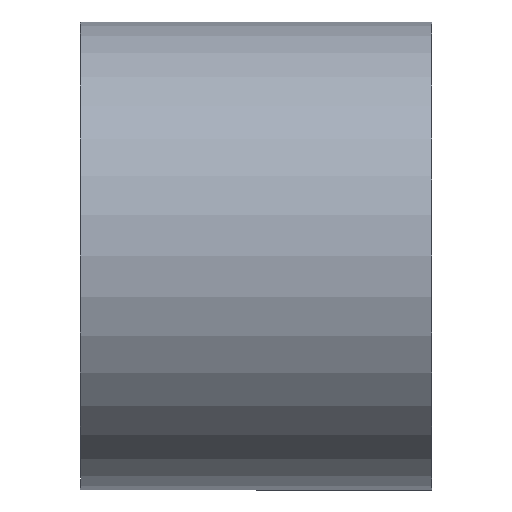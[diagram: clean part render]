
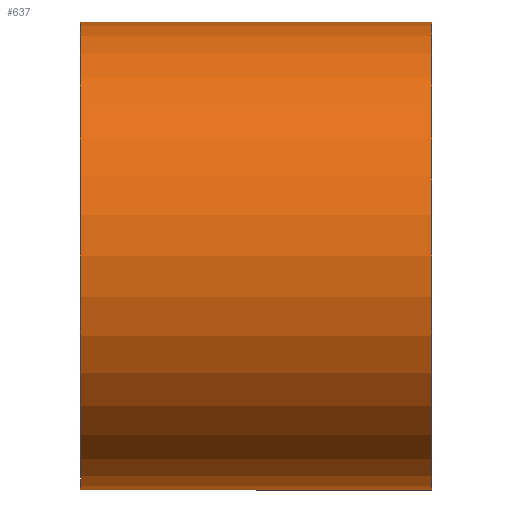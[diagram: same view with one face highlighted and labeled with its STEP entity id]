
A CAD part, front view. The second image highlights one B-rep face of the part: STEP entity #637.
In plain terms, the highlighted cylindrical face has radius 20 mm (diameter 40 mm), a partial arc.
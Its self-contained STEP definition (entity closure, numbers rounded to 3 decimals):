
#5 = AXIS2_PLACEMENT_3D ( 'NONE', #349, #573, #463 ) ;
#21 = CARTESIAN_POINT ( 'NONE',  ( -15., 0., 20. ) ) ;
#22 = DIRECTION ( 'NONE',  ( -1., 0., 0. ) ) ;
#52 = VERTEX_POINT ( 'NONE', #311 ) ;
#72 = VERTEX_POINT ( 'NONE', #133 ) ;
#77 = VECTOR ( 'NONE', #585, 1000. ) ;
#87 = ORIENTED_EDGE ( 'NONE', *, *, #224, .T. ) ;
#91 = AXIS2_PLACEMENT_3D ( 'NONE', #111, #22, #567 ) ;
#98 = CARTESIAN_POINT ( 'NONE',  ( 0., 0., 20. ) ) ;
#111 = CARTESIAN_POINT ( 'NONE',  ( 15., 0., 0. ) ) ;
#133 = CARTESIAN_POINT ( 'NONE',  ( -15., 0., -20. ) ) ;
#161 = CARTESIAN_POINT ( 'NONE',  ( 15., 0., 20. ) ) ;
#167 = VECTOR ( 'NONE', #328, 1000. ) ;
#213 = VERTEX_POINT ( 'NONE', #161 ) ;
#224 = EDGE_CURVE ( 'NONE', #52, #213, #306, .T. ) ;
#258 = EDGE_CURVE ( 'NONE', #72, #613, #721, .T. ) ;
#278 = CYLINDRICAL_SURFACE ( 'NONE', #447, 20. ) ;
#302 = EDGE_CURVE ( 'NONE', #52, #72, #371, .T. ) ;
#306 = CIRCLE ( 'NONE', #91, 20. ) ;
#311 = CARTESIAN_POINT ( 'NONE',  ( 15., 0., -20. ) ) ;
#328 = DIRECTION ( 'NONE',  ( -1., 0., 0. ) ) ;
#335 = ORIENTED_EDGE ( 'NONE', *, *, #458, .T. ) ;
#344 = ORIENTED_EDGE ( 'NONE', *, *, #302, .F. ) ;
#349 = CARTESIAN_POINT ( 'NONE',  ( -15., 0., 0. ) ) ;
#371 = LINE ( 'NONE', #522, #77 ) ;
#386 = LINE ( 'NONE', #98, #167 ) ;
#392 = FACE_OUTER_BOUND ( 'NONE', #561, .T. ) ;
#447 = AXIS2_PLACEMENT_3D ( 'NONE', #562, #455, #572 ) ;
#455 = DIRECTION ( 'NONE',  ( -1., 0., 0. ) ) ;
#458 = EDGE_CURVE ( 'NONE', #213, #613, #386, .T. ) ;
#463 = DIRECTION ( 'NONE',  ( 0., 0., 1. ) ) ;
#464 = ORIENTED_EDGE ( 'NONE', *, *, #258, .F. ) ;
#522 = CARTESIAN_POINT ( 'NONE',  ( 0., 0., -20. ) ) ;
#561 = EDGE_LOOP ( 'NONE', ( #344, #87, #335, #464 ) ) ;
#562 = CARTESIAN_POINT ( 'NONE',  ( 0., 0., 0. ) ) ;
#567 = DIRECTION ( 'NONE',  ( 0., 0., 1. ) ) ;
#572 = DIRECTION ( 'NONE',  ( 0., 0., 1. ) ) ;
#573 = DIRECTION ( 'NONE',  ( -1., 0., 0. ) ) ;
#585 = DIRECTION ( 'NONE',  ( -1., 0., 0. ) ) ;
#613 = VERTEX_POINT ( 'NONE', #21 ) ;
#637 = ADVANCED_FACE ( 'NONE', ( #392 ), #278, .T. ) ;
#721 = CIRCLE ( 'NONE', #5, 20. ) ;
